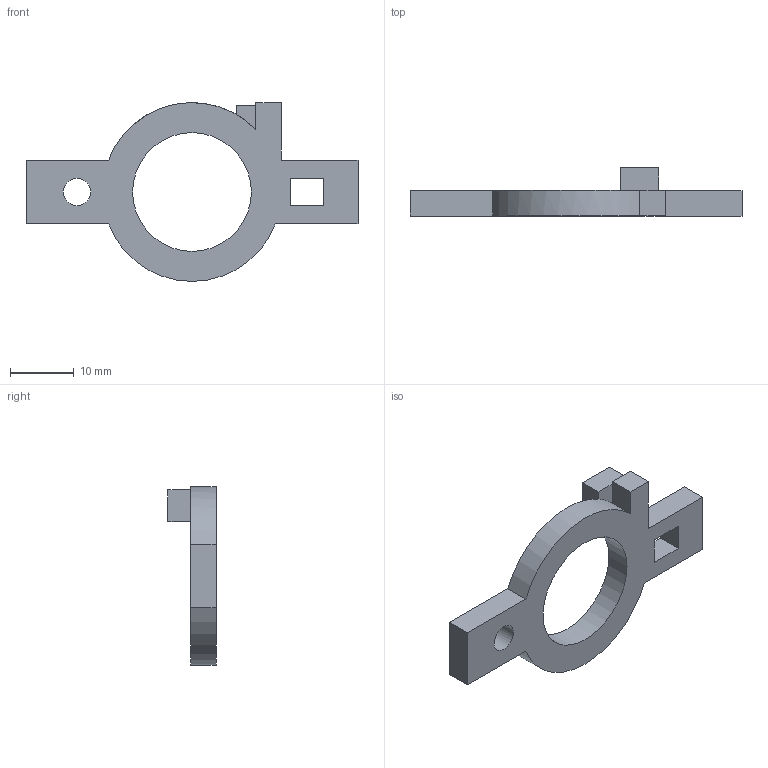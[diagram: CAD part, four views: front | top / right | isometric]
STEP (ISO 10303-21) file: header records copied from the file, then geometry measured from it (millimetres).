
FILE_DESCRIPTION(('Open CASCADE Model'),'2;1');
FILE_NAME('Open CASCADE Shape Model','2026-10-05T13:24:19',('Author'),( 'Open CASCADE'),'Open CASCADE STEP processor 7.8','Open CASCADE 7.8' ,'Unknown');
FILE_SCHEMA(('AUTOMOTIVE_DESIGN { 1 0 10303 214 1 1 1 1 }'));
Length unit declared in the file: millimetre
Products named in the file (1): Open CASCADE STEP translator 7.8 6
Bounding box: 52 x 7.55 x 28 mm (x, y, z)
Volume: 2427.7 mm3; surface area: 2216.8 mm2
Topology: 1 solids, 1 shells, 25 faces, 67 edges, 44 vertices
Faces by surface type: plane 21, cylinder 4
Full cylindrical faces by diameter (mm): 4.3 x1, 18.6 x1
Entity records: 1667 total; most frequent: CARTESIAN_POINT 325, DIRECTION 238, LINE 165, VECTOR 165, ORIENTED_EDGE 134, PCURVE 134, DEFINITIONAL_REPRESENTATION 134, EDGE_CURVE 67
